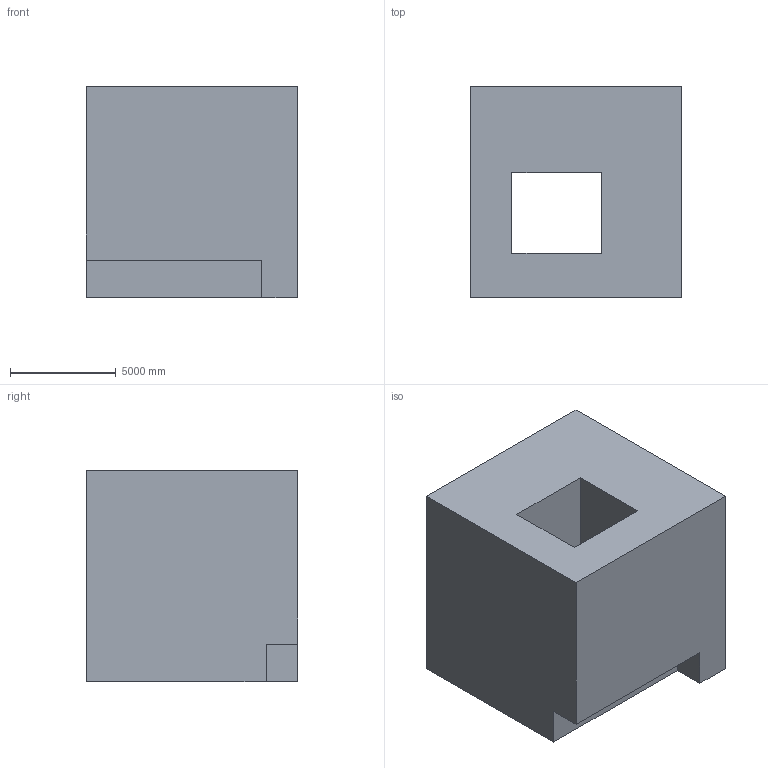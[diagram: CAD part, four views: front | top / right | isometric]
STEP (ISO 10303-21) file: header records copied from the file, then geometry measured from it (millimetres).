
FILE_DESCRIPTION (( 'STEP AP203' ), '1' );
FILE_NAME ('1120.STEP', '2022-08-18T12:50:22', ( 'user' ), ( '' ), 'SwSTEP 2.0', 'SolidWorks 2021', '' );
FILE_SCHEMA (( 'CONFIG_CONTROL_DESIGN' ));
Length unit declared in the file: centimetre
Products named in the file (1): 1120
Bounding box: 10000 x 10000 x 10000 mm (x, y, z)
Volume: 814336168024.1 mm3; surface area: 729306482.5 mm2
Topology: 1 solids, 1 shells, 13 faces, 33 edges, 22 vertices
Faces by surface type: plane 13
Entity records: 468 total; most frequent: CARTESIAN_POINT 69, ORIENTED_EDGE 66, DIRECTION 61, LINE 33, EDGE_CURVE 33, VECTOR 33, VERTEX_POINT 22, EDGE_LOOP 15
